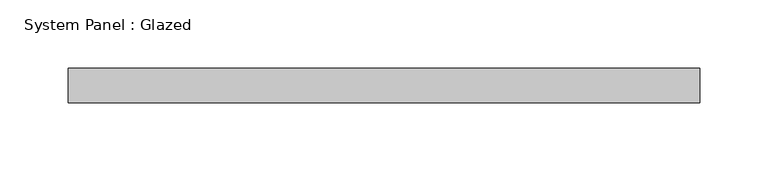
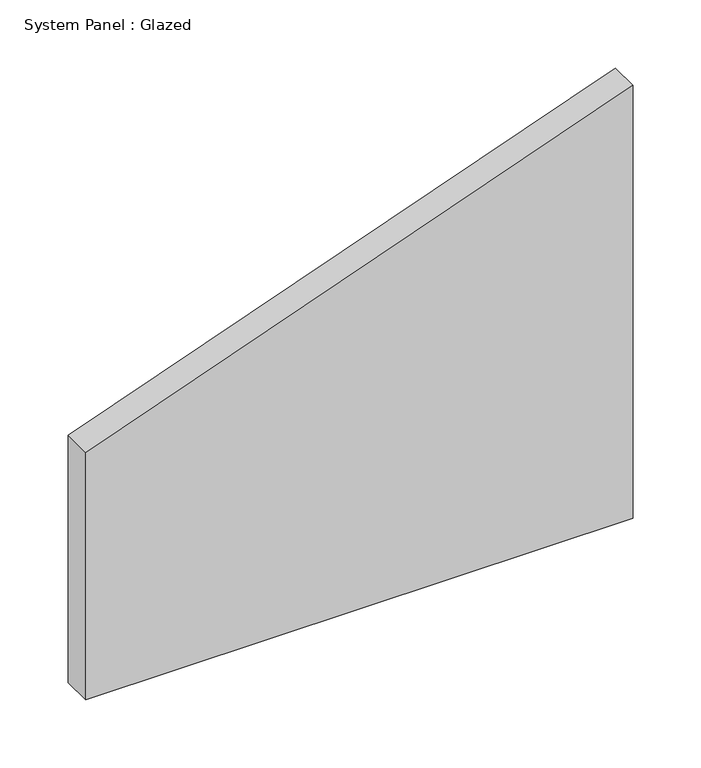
"""IFC4 building model written with IfcOpenShell, lengths in millimetres: plate geometry, System Panel : Glazed."""

from ifc_helpers import new_model, si_unit, point, frame, frame_2d, origin, place, context, project, spatial, polyline, circle_curve, trimmed, segment, composite_curve, outline, extrude, source, transform, mapped, element, save


def system_panel_glazed_93fda46f(model_context):
    return source(origin(), model_context, "Body", "SweptSolid", [
        extrude(outline(composite_curve([segment(polyline([(0.0, -231.775), (0.0, 231.775), (387.6147835, 231.775)]), True, "CONTINUOUS"), segment(trimmed(circle_curve(frame_2d((-3131.2800218, 1233.3558928)), 3658.6588985), [point((387.6147835, 231.775))], [point((221.2080695, -231.775))], False, "CARTESIAN"), True, "CONTINUOUS"), segment(polyline([(221.2080695, -231.775), (0.0, -231.775)]), True, "CONTINUOUS")], self_intersect=False)), frame((0.0, 19.05, 0.0), z_axis=(0.0, 1.0, 0.0), x_axis=(0.0, 0.0, 1.0)), (0.0, 0.0, 1.0), 25.4),
    ])


if __name__ == "__main__":
    model = new_model("IFC4")
    model_context = context("Model", 3, world=origin())
    ifc_project = project(units=[si_unit("LENGTHUNIT", "METRE", prefix="MILLI")], contexts=[model_context])
    site = spatial("IfcSite", under=ifc_project)
    building = spatial("IfcBuilding", under=site)
    placement = place(None, origin())
    system_panel_glazed_shape = system_panel_glazed_93fda46f(model_context)
    element("IfcPlate", 1, ObjectType="System Panel : Glazed", at=placement, inside=building, context=model_context, shape_type="MappedRepresentation", body=[
        mapped(system_panel_glazed_shape, transform((0.0, 0.0, 0.0), x_axis=(1.0, 0.0, 0.0), y_axis=(0.0, 1.0, 0.0), z_axis=(0.0, 0.0, 1.0))),
    ])
    save(model, "model.ifc")
